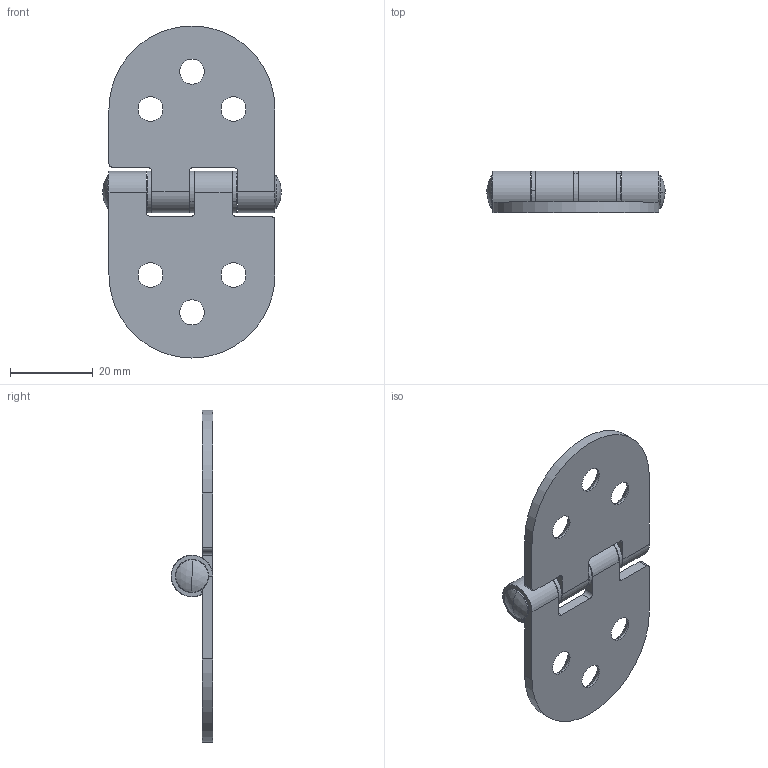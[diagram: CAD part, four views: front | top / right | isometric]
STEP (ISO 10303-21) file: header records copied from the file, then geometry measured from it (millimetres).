
FILE_DESCRIPTION (( 'STEP AP214' ), '1' );
FILE_NAME ('SK2-041.STEP', '2020-04-15T05:58:42', ( 'admin' ), ( 'Microsoft' ), 'SwSTEP 2.0', 'SolidWorks 2018', '' );
FILE_SCHEMA (( 'AUTOMOTIVE_DESIGN' ));
Length unit declared in the file: millimetre
Products named in the file (4): 2-041-F3; 2-041-F2; 2-041-F1; SK2-041
Assembly tree (6 placements, depth 2):
  SK2-041
    2-041-F1  x2
    2-041-F2  x3
    2-041-F3
Bounding box: 43 x 10 x 80 mm (x, y, z)
Volume: 8589.7 mm3; surface area: 8870.6 mm2
Topology: 6 solids, 6 shells, 102 faces, 234 edges, 146 vertices
Faces by surface type: cylinder 44, plane 38, cone 12, sphere 4, torus 4
Entity records: 1716 total; most frequent: DIRECTION 312, CARTESIAN_POINT 261, ORIENTED_EDGE 244, AXIS2_PLACEMENT_3D 127, EDGE_CURVE 122, VERTEX_POINT 76, CIRCLE 64, EDGE_LOOP 64
